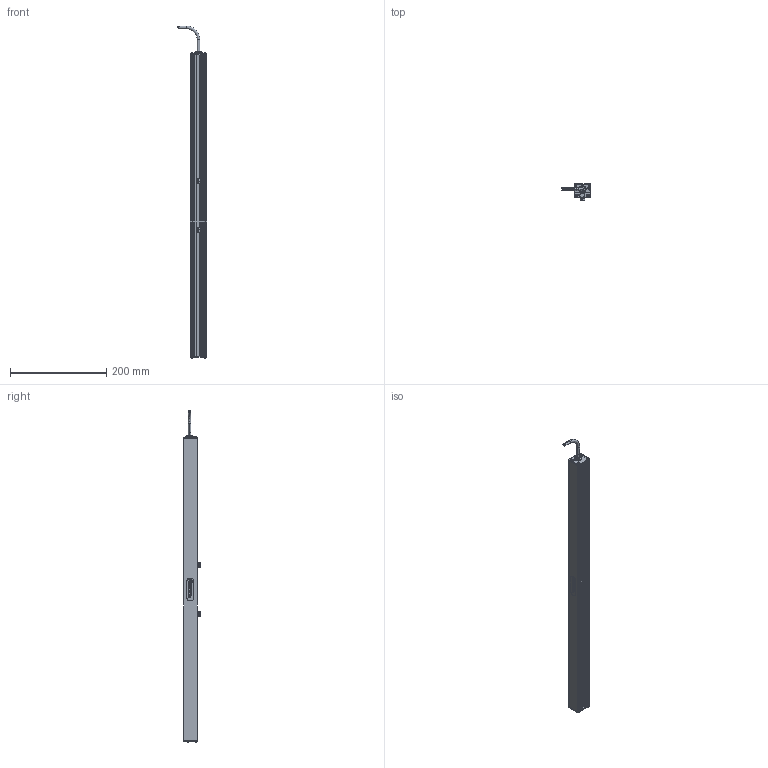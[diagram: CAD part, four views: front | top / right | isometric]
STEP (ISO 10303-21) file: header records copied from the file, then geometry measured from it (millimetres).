
FILE_DESCRIPTION (( 'STEP AP214' ), '1' );
FILE_NAME ('LL174 _NONSELAED__LL17424.stp', '2021-04-29T15:30:23', ( '' ), ( '' ), 'SwSTEP 2.0', 'SolidWorks 2018', '' );
FILE_SCHEMA (( 'AUTOMOTIVE_DESIGN' ));
Length unit declared in the file: inch
Products named in the file (12): CHM6x8_91460A312; 1157 (no strap); 091053; 090928-XXX_090928-024; LL174 _NONSELAED__LL17424; 093145_93701A253; 116-02-007; 116-02-006; 092408_TRUNCATED; HN-M6_90592A016; 096591-XX_096591-24
Assembly tree (21 placements, depth 3):
  LL174 _NONSELAED__LL17424
    096591-XX_096591-24
    116-02-007
    1157 (no strap)
    093145_93701A253  x8
    HN-M6_90592A016  x2
    CHM6x8_91460A312  x2
    090928-XXX_090928-024
    116-02-006
    091053  x2
      091053
    092408_TRUNCATED
Bounding box: 60.69 x 35.06 x 691.06 mm (x, y, z)
Volume: 219222.8 mm3; surface area: 217680.8 mm2
Topology: 28 solids, 28 shells, 1802 faces, 4720 edges, 2983 vertices
Faces by surface type: cylinder 839, plane 545, cone 249, bspline 102, torus 59, sphere 8
Entity records: 31047 total; most frequent: CARTESIAN_POINT 9882, ORIENTED_EDGE 3780, DIRECTION 3351, EDGE_CURVE 1890, VERTEX_POINT 1228, AXIS2_PLACEMENT_3D 1132, LINE 1087, VECTOR 1087
